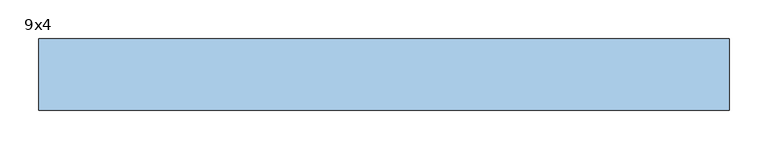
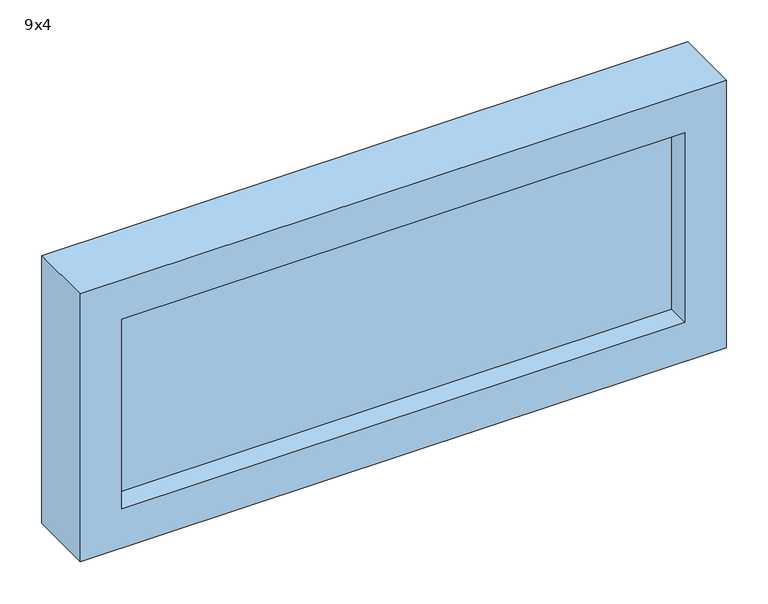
"""IFC4 building model written with IfcOpenShell, lengths in millimetres: window geometry, Vindu FK : 9x4."""

from ifc_helpers import new_model, si_unit, frame, origin, place, context, project, spatial, polyline, outline, extrude, faceted_brep, source, transform, mapped, element, save


def window_9x4_a0d7365a(model_context):
    return source(origin(), model_context, "Body", "SolidModel", [
        extrude(outline(polyline([(-406.0, -39.0), (406.0, -39.0), (406.0, -63.0), (-406.0, -63.0), (-406.0, -39.0)])), frame((0.0, 0.0, 929.0), z_axis=(0.0, 0.0, 1.0), x_axis=(1.0, 0.0, 0.0)), (0.0, 0.0, 1.0), 312.0),
        faceted_brep([(-445.0, -3.0, 890.0), (-445.0, -95.0, 890.0), (-445.0, -95.0, 1280.0), (-445.0, -3.0, 1280.0), (-406.0, -63.0, 929.0), (-406.0, -3.0, 929.0), (-406.0, -3.0, 1241.0), (-406.0, -63.0, 1241.0), (-388.0, -95.0, 947.0), (-388.0, -63.0, 947.0), (-388.0, -63.0, 1223.0), (-388.0, -95.0, 1223.0), (445.0, -95.0, 1280.0), (445.0, -3.0, 1280.0), (406.0, -3.0, 1241.0), (406.0, -63.0, 1241.0), (388.0, -63.0, 1223.0), (388.0, -95.0, 1223.0), (445.0, -95.0, 890.0), (445.0, -3.0, 890.0), (406.0, -3.0, 929.0), (406.0, -63.0, 929.0), (388.0, -63.0, 947.0), (388.0, -95.0, 947.0)], [[[0, 1, 2, 3]], [[4, 5, 6, 7]], [[8, 9, 10, 11]], [[3, 2, 12, 13]], [[7, 6, 14, 15]], [[11, 10, 16, 17]], [[13, 12, 18, 19]], [[15, 14, 20, 21]], [[17, 16, 22, 23]], [[19, 18, 1, 0]], [[3, 13, 19, 0], [5, 20, 14, 6]], [[21, 20, 5, 4]], [[7, 15, 21, 4], [9, 22, 16, 10]], [[23, 22, 9, 8]], [[1, 18, 12, 2], [11, 17, 23, 8]]]),
    ])


if __name__ == "__main__":
    model = new_model("IFC4")
    model_context = context("Model", 3, world=origin())
    ifc_project = project(units=[si_unit("LENGTHUNIT", "METRE", prefix="MILLI")], contexts=[model_context])
    site = spatial("IfcSite", under=ifc_project)
    building = spatial("IfcBuilding", under=site)
    placement = place(None, origin())
    window_9x4_shape = window_9x4_a0d7365a(model_context)
    element("IfcWindow", 1, ObjectType="Vindu FK : 9x4", at=placement, inside=building, context=model_context, shape_type="MappedRepresentation", body=[
        mapped(window_9x4_shape, transform((0.0, 0.0, 0.0), x_axis=(1.0, 0.0, 0.0), y_axis=(0.0, 1.0, 0.0), z_axis=(0.0, 0.0, 1.0))),
    ])
    save(model, "model.ifc")
